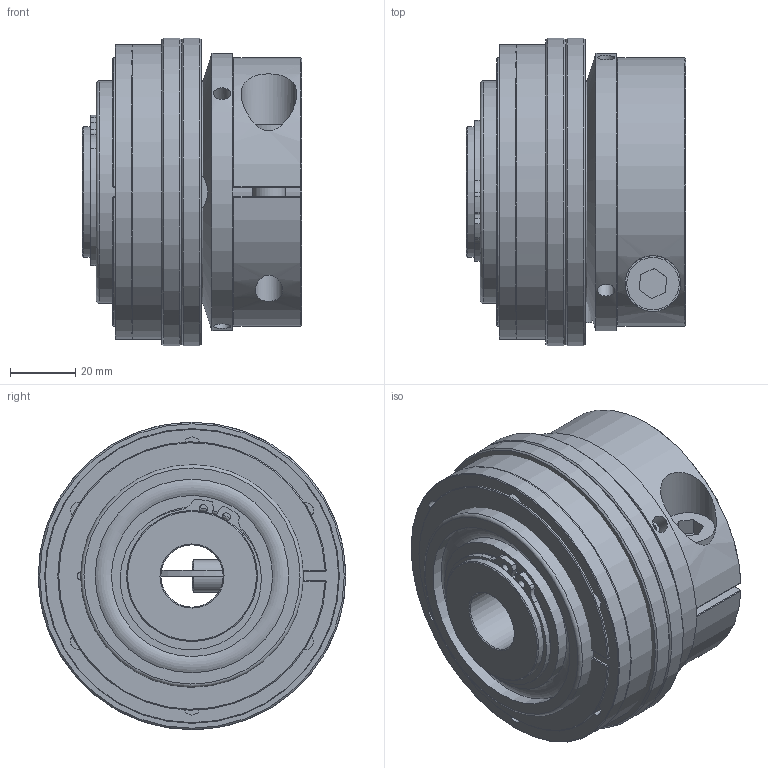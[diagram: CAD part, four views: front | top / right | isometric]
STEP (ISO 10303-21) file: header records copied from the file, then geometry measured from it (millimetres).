
FILE_DESCRIPTION( ( 'Unknown' ), '1' );
FILE_NAME( 'C:/Dokumente und Einstellungen/Sven/Desktop/hp kbk/KBK L-K-80.stp', 'Unknown', ( 'Unknown' ), ( 'Unknown' ), 'XStep 1.0', 'Unknown', ' ' );
FILE_SCHEMA( ( 'automotive_design' ) );
Length unit declared in the file: millimetre
Products named in the file (13): Assem1; Assem2; Assem3; ball_bearing_-_6008_0_01_0; ball_bearing_-_6008_0_02_0; ball_bearing_-_6008_0_03_0; Zylinderschraube DIN 912_1_0; Stellring 80_0; Druckring 80_0; Flansch 80_0; a_40_0; KBK L-K-80 Grundkörper_0; Klemmnabe 80_0
Bounding box: 67 x 94 x 94 mm (x, y, z)
Surface area: 221590.7 mm2
Topology: 24 solids, 24 shells, 342 faces, 742 edges, 484 vertices
Faces by surface type: plane 138, cylinder 120, cone 59, torus 25
Full cylindrical faces by diameter (mm): 2.5 x4, 3.242 x6, 4.917 x12, 5 x8, 5.2 x6, 8.376 x2, 10 x3, 10.5 x2, 16 x3, 17 x2, 19 x2, 37.5 x2, 40 x7, 42 x2, 49.2 x6, 59.1 x6, 61 x2, 62 x4, 68 x5, 70 x2, 85 x2, 87 x2, 90 x4, 94 x2
Entity records: 4632 total; most frequent: CARTESIAN_POINT 1161, DIRECTION 684, ORIENTED_EDGE 472, AXIS2_PLACEMENT_3D 307, EDGE_LOOP 278, EDGE_CURVE 236, FACE_OUTER_BOUND 207, VERTEX_POINT 196
